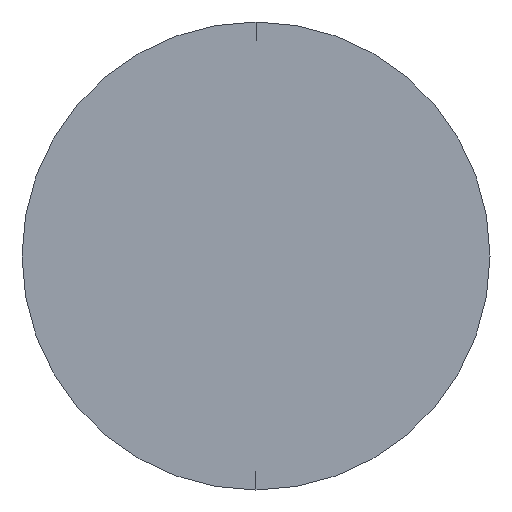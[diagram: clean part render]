
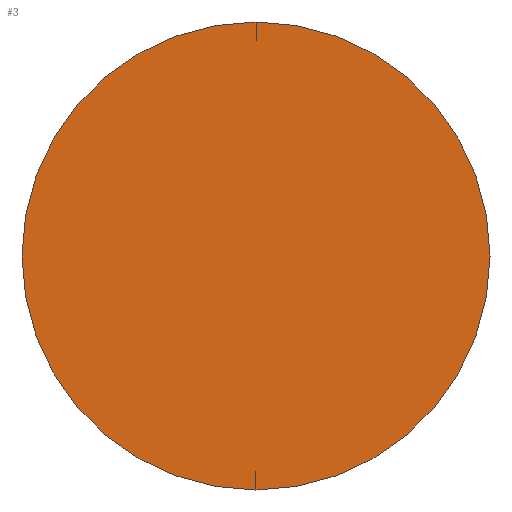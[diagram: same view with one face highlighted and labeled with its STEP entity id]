
A CAD part, left-side view. The second image highlights one B-rep face of the part: STEP entity #3.
In plain terms, the highlighted planar face has unit normal (-1, 0, 0).
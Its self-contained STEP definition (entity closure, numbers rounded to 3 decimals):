
#3 = ADVANCED_FACE ( 'NONE', ( #185 ), #292, .F. ) ;
#8 = ORIENTED_EDGE ( 'NONE', *, *, #128, .T. ) ;
#11 = AXIS2_PLACEMENT_3D ( 'NONE', #101, #264, #194 ) ;
#14 = CARTESIAN_POINT ( 'NONE',  ( 0., 0., 0. ) ) ;
#42 = VERTEX_POINT ( 'NONE', #252 ) ;
#64 = AXIS2_PLACEMENT_3D ( 'NONE', #180, #233, #69 ) ;
#69 = DIRECTION ( 'NONE',  ( 0., 0., -1. ) ) ;
#90 = AXIS2_PLACEMENT_3D ( 'NONE', #14, #285, #186 ) ;
#101 = CARTESIAN_POINT ( 'NONE',  ( 0., 0., 0. ) ) ;
#125 = CARTESIAN_POINT ( 'NONE',  ( 0., 0., 1. ) ) ;
#127 = VERTEX_POINT ( 'NONE', #125 ) ;
#128 = EDGE_CURVE ( 'NONE', #42, #127, #148, .T. ) ;
#148 = CIRCLE ( 'NONE', #90, 1. ) ;
#157 = EDGE_LOOP ( 'NONE', ( #162, #8 ) ) ;
#162 = ORIENTED_EDGE ( 'NONE', *, *, #286, .T. ) ;
#180 = CARTESIAN_POINT ( 'NONE',  ( 0., 0., 0. ) ) ;
#185 = FACE_OUTER_BOUND ( 'NONE', #157, .T. ) ;
#186 = DIRECTION ( 'NONE',  ( 0., 0., 1. ) ) ;
#194 = DIRECTION ( 'NONE',  ( 0., 0., 1. ) ) ;
#233 = DIRECTION ( 'NONE',  ( 1., 0., 0. ) ) ;
#252 = CARTESIAN_POINT ( 'NONE',  ( 0., 0., -1. ) ) ;
#264 = DIRECTION ( 'NONE',  ( -1., 0., 0. ) ) ;
#268 = CIRCLE ( 'NONE', #11, 1. ) ;
#285 = DIRECTION ( 'NONE',  ( -1., 0., 0. ) ) ;
#286 = EDGE_CURVE ( 'NONE', #127, #42, #268, .T. ) ;
#292 = PLANE ( 'NONE',  #64 ) ;
